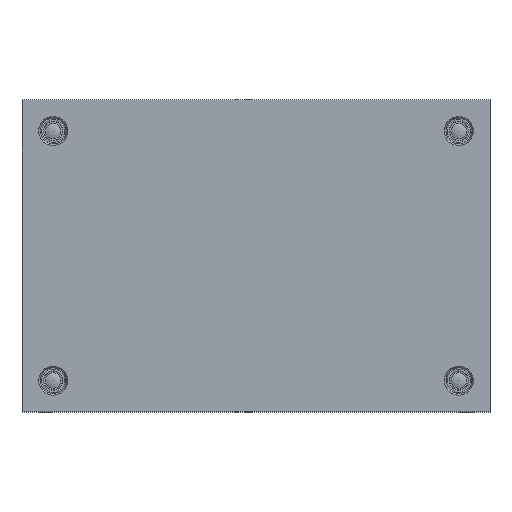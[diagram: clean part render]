
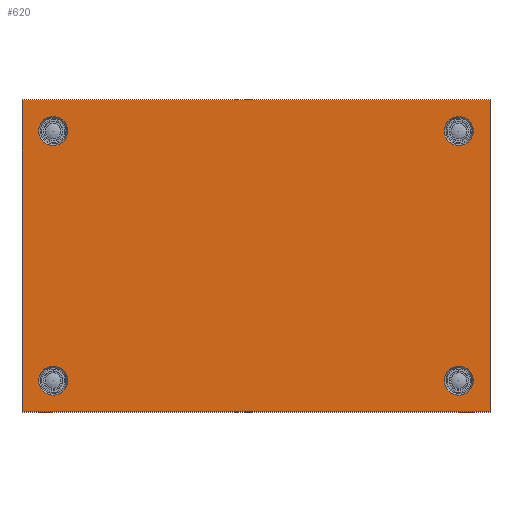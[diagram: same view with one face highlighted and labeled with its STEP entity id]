
A CAD part, top view. The second image highlights one B-rep face of the part: STEP entity #620.
In plain terms, the highlighted planar face has unit normal (0, 0, 1).
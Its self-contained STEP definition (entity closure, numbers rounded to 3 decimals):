
#620 = ADVANCED_FACE( '', ( #1305, #1306, #1307, #1308, #1309 ), #1310, .F. );
#1305 = FACE_BOUND( '', #2043, .T. );
#1306 = FACE_BOUND( '', #2044, .T. );
#1307 = FACE_BOUND( '', #2045, .T. );
#1308 = FACE_BOUND( '', #2046, .T. );
#1309 = FACE_OUTER_BOUND( '', #2047, .T. );
#1310 = PLANE( '', #2048 );
#2043 = EDGE_LOOP( '', ( #3472 ) );
#2044 = EDGE_LOOP( '', ( #3473 ) );
#2045 = EDGE_LOOP( '', ( #3474 ) );
#2046 = EDGE_LOOP( '', ( #3475 ) );
#2047 = EDGE_LOOP( '', ( #3476, #3477, #3478, #3479 ) );
#2048 = AXIS2_PLACEMENT_3D( '', #3480, #3481, #3482 );
#3472 = ORIENTED_EDGE( '', *, *, #4167, .T. );
#3473 = ORIENTED_EDGE( '', *, *, #3965, .T. );
#3474 = ORIENTED_EDGE( '', *, *, #4483, .T. );
#3475 = ORIENTED_EDGE( '', *, *, #4484, .T. );
#3476 = ORIENTED_EDGE( '', *, *, #4142, .T. );
#3477 = ORIENTED_EDGE( '', *, *, #4152, .F. );
#3478 = ORIENTED_EDGE( '', *, *, #4485, .F. );
#3479 = ORIENTED_EDGE( '', *, *, #4486, .T. );
#3480 = CARTESIAN_POINT( '', ( -150., 100., 0. ) );
#3481 = DIRECTION( '', ( 0., 0., -1. ) );
#3482 = DIRECTION( '', ( -1., 0., 0. ) );
#3965 = EDGE_CURVE( '', #4631, #4631, #4632, .T. );
#4142 = EDGE_CURVE( '', #4927, #4931, #4933, .T. );
#4152 = EDGE_CURVE( '', #4946, #4931, #4948, .T. );
#4167 = EDGE_CURVE( '', #4971, #4971, #4972, .T. );
#4483 = EDGE_CURVE( '', #5416, #5416, #5417, .T. );
#4484 = EDGE_CURVE( '', #5418, #5418, #5419, .T. );
#4485 = EDGE_CURVE( '', #5420, #4946, #5421, .T. );
#4486 = EDGE_CURVE( '', #5420, #4927, #5422, .T. );
#4631 = VERTEX_POINT( '', #5590 );
#4632 = CIRCLE( '', #5591, 9.3 );
#4927 = VERTEX_POINT( '', #5985 );
#4931 = VERTEX_POINT( '', #5991 );
#4933 = LINE( '', #5994, #5995 );
#4946 = VERTEX_POINT( '', #6014 );
#4948 = LINE( '', #6017, #6018 );
#4971 = VERTEX_POINT( '', #6049 );
#4972 = CIRCLE( '', #6050, 9.3 );
#5416 = VERTEX_POINT( '', #6650 );
#5417 = CIRCLE( '', #6651, 9.3 );
#5418 = VERTEX_POINT( '', #6652 );
#5419 = CIRCLE( '', #6653, 9.3 );
#5420 = VERTEX_POINT( '', #6654 );
#5421 = LINE( '', #6655, #6656 );
#5422 = LINE( '', #6657, #6658 );
#5590 = CARTESIAN_POINT( '', ( 120.7, -80., 0. ) );
#5591 = AXIS2_PLACEMENT_3D( '', #6810, #6811, #6812 );
#5985 = CARTESIAN_POINT( '', ( -150., -100., 0. ) );
#5991 = CARTESIAN_POINT( '', ( 150., -100., 0. ) );
#5994 = CARTESIAN_POINT( '', ( -150., -100., 0. ) );
#5995 = VECTOR( '', #7026, 1000. );
#6014 = CARTESIAN_POINT( '', ( 150., 100., 0. ) );
#6017 = CARTESIAN_POINT( '', ( 150., 100., 0. ) );
#6018 = VECTOR( '', #7034, 1000. );
#6049 = CARTESIAN_POINT( '', ( -139.3, 80., 0. ) );
#6050 = AXIS2_PLACEMENT_3D( '', #7052, #7053, #7054 );
#6650 = CARTESIAN_POINT( '', ( -139.3, -80., 0. ) );
#6651 = AXIS2_PLACEMENT_3D( '', #7400, #7401, #7402 );
#6652 = CARTESIAN_POINT( '', ( 120.7, 80., 0. ) );
#6653 = AXIS2_PLACEMENT_3D( '', #7403, #7404, #7405 );
#6654 = CARTESIAN_POINT( '', ( -150., 100., 0. ) );
#6655 = CARTESIAN_POINT( '', ( -150., 100., 0. ) );
#6656 = VECTOR( '', #7406, 1000. );
#6657 = CARTESIAN_POINT( '', ( -150., 100., 0. ) );
#6658 = VECTOR( '', #7407, 1000. );
#6810 = CARTESIAN_POINT( '', ( 130., -80., 0. ) );
#6811 = DIRECTION( '', ( 0., 0., -1. ) );
#6812 = DIRECTION( '', ( -1., 0., 0. ) );
#7026 = DIRECTION( '', ( 1., 0., 0. ) );
#7034 = DIRECTION( '', ( 0., -1., 0. ) );
#7052 = CARTESIAN_POINT( '', ( -130., 80., 0. ) );
#7053 = DIRECTION( '', ( 0., 0., -1. ) );
#7054 = DIRECTION( '', ( -1., 0., 0. ) );
#7400 = CARTESIAN_POINT( '', ( -130., -80., 0. ) );
#7401 = DIRECTION( '', ( 0., 0., -1. ) );
#7402 = DIRECTION( '', ( -1., 0., 0. ) );
#7403 = CARTESIAN_POINT( '', ( 130., 80., 0. ) );
#7404 = DIRECTION( '', ( 0., 0., -1. ) );
#7405 = DIRECTION( '', ( -1., 0., 0. ) );
#7406 = DIRECTION( '', ( 1., 0., 0. ) );
#7407 = DIRECTION( '', ( 0., -1., 0. ) );
